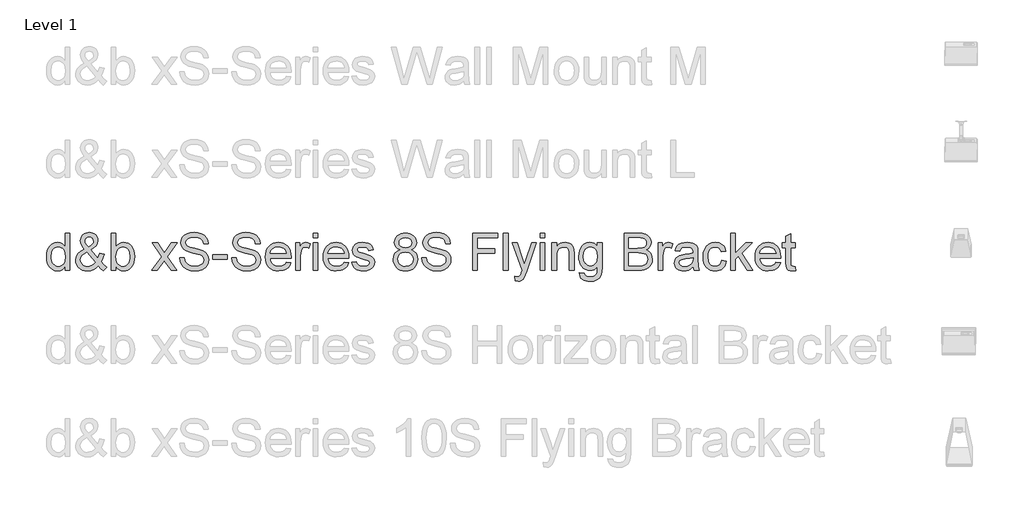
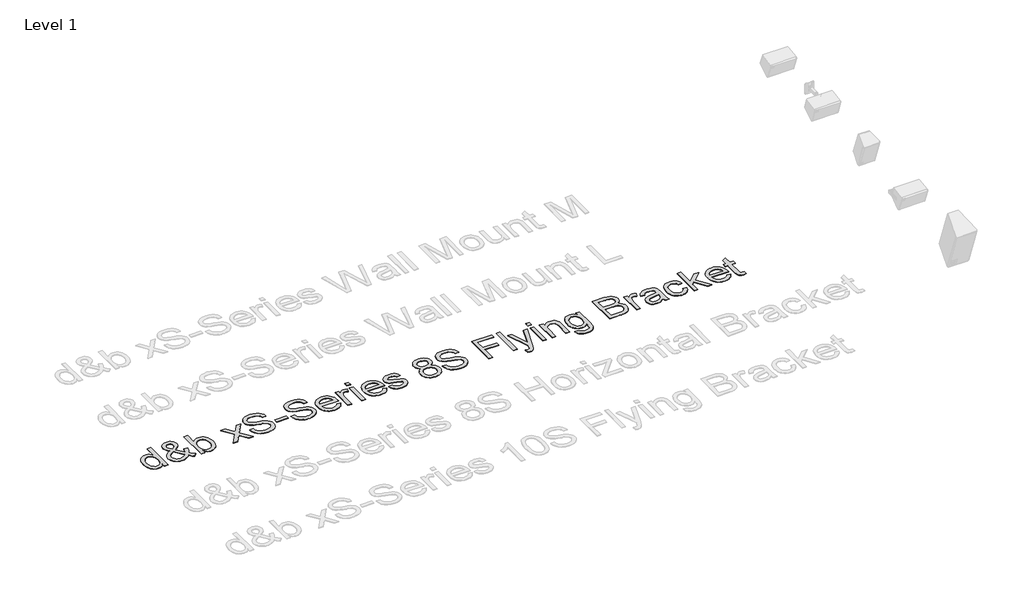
# One storey, part 39 of 55: 1 proxy.
"""IFC4 building model written with IfcOpenShell, lengths in millimetres."""

from ifc_helpers import new_model, si_unit, origin, origin_with_axes, place, context, project, spatial, polyline, outline, extrude, element, save

model = new_model("IFC4")

# Units and contexts
model_context = context("Model", 3, world=origin())
ifc_project = project(units=[si_unit("LENGTHUNIT", "METRE", prefix="MILLI")], contexts=[model_context])

# Site, building, storey
site = spatial("IfcSite", under=ifc_project)
building = spatial("IfcBuilding", under=site)
storey = spatial("IfcBuildingStorey", under=building, Name="Level 1", Elevation=0.0)

# Proxy
placement = place(None, origin())
element("IfcBuildingElementProxy", 1, Name="400mm Arial", ObjectType="400mm Arial", at=placement, inside=storey, context=model_context, shape_type="SweptSolid", body=[
    extrude(outline(polyline([(-20879.8211974, 2351.3054836), (-20879.8211974, 2398.6886846), (-20894.8491769, 2375.2116819), (-20913.0532043, 2358.4423943), (-20934.4332796, 2348.3808217), (-20958.9894028, 2345.0269642), (-20991.4611202, 2349.8830065), (-21021.1859854, 2364.4511335), (-21046.3491139, 2387.7135384), (-21065.1356211, 2418.6524142), (-21076.8342686, 2456.0169621), (-21080.7338177, 2498.5563835), (-21077.1408369, 2540.5685074), (-21066.3618944, 2578.5094038), (-21048.4092531, 2610.2208318), (-21023.2951755, 2633.5445503), (-20992.9203855, 2647.8919481), (-20959.1856065, 2652.674414), (-20934.6110892, 2649.2531115), (-20912.8815261, 2638.9892038), (-20894.4629008, 2623.2561171), (-20879.8211974, 2603.4272776), (-20879.8211974, 2753.1307242), (-20829.5930424, 2753.1307242), (-20829.5930424, 2351.3054836), (-20879.8211974, 2351.3054836)]), holes=[polyline([(-21030.5056627, 2498.7525872), (-21029.089317, 2474.3957335), (-21024.8402799, 2453.3191608), (-21017.7585515, 2435.5228693), (-21007.8441318, 2421.0068589), (-20983.1469871, 2401.6930542), (-20969.2717046, 2396.864603), (-20954.3786151, 2395.2551193), (-20939.415015, 2396.7910266), (-20925.6225058, 2401.3987486), (-20901.5507606, 2419.8296365), (-20892.0440767, 2433.7386416), (-20885.2535882, 2450.8911397), (-20879.8211974, 2494.9266145), (-20885.3516901, 2543.0701049), (-20892.2648059, 2561.6052261), (-20901.9431681, 2576.4492646), (-20913.6448812, 2587.8229496), (-20926.6280499, 2595.9470104), (-20940.8926743, 2600.8214468), (-20956.4387543, 2602.4462589), (-20971.6261493, 2600.8858262), (-20985.5014319, 2596.2045278), (-20998.064602, 2588.4023638), (-21009.3156597, 2577.4793342), (-21018.586286, 2563.1963157), (-21025.2081619, 2545.3141851), (-21030.5056627, 2498.7525872)])]), origin_with_axes(), (0.0, 0.0, 1.0), 5.0),
    extrude(outline(polyline([(-20523.809528, 2400.9450275), (-20549.3405384, 2376.4808748), (-20577.0788409, 2359.00648), (-20607.0734862, 2348.5218431), (-20639.3735254, 2345.0269642), (-20668.6814577, 2347.6144009), (-20694.8010793, 2355.376711), (-20717.7323904, 2368.3138945), (-20737.4753908, 2386.4259514), (-20750.308341, 2403.7961129), (-20759.4747341, 2422.1595558), (-20764.9745699, 2441.5162802), (-20766.8078485, 2461.8662859), (-20760.9094739, 2497.0603301), (-20743.2143499, 2528.6736562), (-20713.796053, 2556.6817387), (-20672.7281596, 2581.0600523), (-20694.6416638, 2609.4114914), (-20707.7995765, 2631.8768186), (-20714.3846642, 2651.0557332), (-20716.5796934, 2669.5479349), (-20714.8506481, 2687.1020374), (-20709.6635119, 2703.4666548), (-20701.018285, 2718.6417871), (-20688.9149674, 2732.6274343), (-20674.1935562, 2744.3444759), (-20657.6940487, 2752.7137912), (-20639.4164449, 2757.7353805), (-20619.3607448, 2759.4092436), (-20600.212487, 2757.8089569), (-20582.8913764, 2753.0080968), (-20567.397413, 2745.0066634), (-20553.7305969, 2733.8046567), (-20542.5715097, 2720.3585698), (-20534.6007332, 2705.6248959), (-20529.8182672, 2689.603635), (-20528.2241119, 2672.2947871), (-20532.9452642, 2644.31123), (-20547.108721, 2618.436863), (-20570.7144823, 2594.6716861), (-20603.7625482, 2573.0156993), (-20531.069066, 2482.4676776), (-20518.6837055, 2508.3420446), (-20509.3885538, 2538.0914353), (-20459.1603987, 2527.2021282), (-20474.6114425, 2480.6773185), (-20494.6732739, 2444.5022557), (-20466.1256311, 2411.1966724), (-20434.0463211, 2383.6790991), (-20471.7174374, 2345.0269642), (-20497.3465498, 2368.47331), (-20523.809528, 2400.9450275)]), holes=[polyline([(-20557.4584678, 2437.1446158), (-20647.1235727, 2549.0788442), (-20681.3733865, 2527.2266537), (-20702.305872, 2506.9931439), (-20713.0112381, 2487.6670765), (-20716.5796934, 2468.5372127), (-20711.6991256, 2444.8456122), (-20697.0574222, 2420.2710949), (-20686.2784798, 2409.3266056), (-20673.4639236, 2401.5091132), (-20658.6137537, 2396.8186177), (-20641.7279702, 2395.2551193), (-20619.0051256, 2398.1736498), (-20595.5710425, 2406.9292412), (-20574.1480476, 2420.3201459), (-20557.4584678, 2437.1446158)]), polyline([(-20629.1709314, 2604.7026019), (-20602.9041569, 2621.3676562), (-20587.8700461, 2635.8499441), (-20580.8067117, 2649.9398245), (-20578.452267, 2665.4276565), (-20581.5547385, 2682.9756277), (-20590.862153, 2696.9674062), (-20604.829406, 2706.1276679), (-20621.9113933, 2709.1810885), (-20639.3612626, 2706.1521934), (-20653.6473468, 2697.0655081), (-20663.1754905, 2683.6132898), (-20666.3515384, 2667.4877957), (-20662.0350563, 2649.0936959), (-20648.9875082, 2628.639457), (-20629.1709314, 2604.7026019)])]), origin_with_axes(), (0.0, 0.0, 1.0), 5.0),
    extrude(outline(polyline([(-20333.590011, 2351.3054836), (-20383.8181661, 2351.3054836), (-20383.8181661, 2753.1307242), (-20333.590011, 2753.1307242), (-20333.590011, 2604.1139907), (-20317.0721094, 2625.3591759), (-20298.4204923, 2640.5343082), (-20277.6351595, 2649.6393876), (-20254.7161112, 2652.674414), (-20228.8417442, 2649.9398245), (-20204.3898543, 2641.736056), (-20182.758393, 2628.5781433), (-20165.3453119, 2610.9811212), (-20151.6968898, 2589.116668), (-20141.3594058, 2563.1564619), (-20134.8478945, 2534.1796234), (-20132.6773907, 2503.265273), (-20134.9245365, 2467.5929822), (-20141.6659741, 2436.2126481), (-20152.9017034, 2409.1242705), (-20168.6317244, 2386.3278495), (-20187.5132678, 2368.2587122), (-20208.2035643, 2355.3521855), (-20230.702614, 2347.6082695), (-20255.0104168, 2345.0269642), (-20278.6836232, 2348.3562962), (-20299.671291, 2358.3442924), (-20317.9734203, 2374.9909527), (-20333.590011, 2398.2962771), (-20333.590011, 2351.3054836)]), holes=[polyline([(-20333.590011, 2500.9108283), (-20330.1564457, 2459.0213318), (-20319.8557498, 2430.6698927), (-20307.6849872, 2415.1759293), (-20293.5399244, 2404.1088126), (-20277.4205617, 2397.4685426), (-20259.3268989, 2395.2551193), (-20244.3050508, 2396.8860628), (-20230.3377977, 2401.7788933), (-20217.4251396, 2409.9336109), (-20205.5670767, 2421.3502155), (-20195.6526569, 2435.9980502), (-20188.5709285, 2453.8464584), (-20184.3218914, 2474.8954399), (-20182.9055458, 2499.1449947), (-20188.3379366, 2545.1057186), (-20195.1284251, 2562.8989445), (-20204.6351089, 2577.2340795), (-20216.0670419, 2588.264408), (-20228.6332778, 2596.1432141), (-20242.3338164, 2600.8704977), (-20257.1686579, 2602.4462589), (-20272.190506, 2600.8153154), (-20286.1577591, 2595.9224849), (-20299.0704171, 2587.7677673), (-20310.9284801, 2576.3511628), (-20320.8428999, 2561.8504808), (-20327.9246283, 2544.443531), (-20332.1736653, 2524.1303135), (-20333.590011, 2500.9108283)])]), origin_with_axes(), (0.0, 0.0, 1.0), 5.0),
    extrude(outline(polyline([(-19950.6003285, 2351.3054836), (-19843.2768878, 2499.7336059), (-19944.3218092, 2646.3958946), (-19884.0872638, 2646.3958946), (-19835.3306367, 2575.6644497), (-19812.4729021, 2542.4079173), (-19792.6563253, 2569.6802359), (-19737.1306695, 2646.3958946), (-19676.6999204, 2646.3958946), (-19782.8461387, 2499.635504), (-19680.623995, 2351.3054836), (-19740.9566422, 2351.3054836), (-19802.5646137, 2440.5781811), (-19813.7482263, 2456.9611926), (-19890.1695795, 2351.3054836), (-19950.6003285, 2351.3054836)])), origin_with_axes(), (0.0, 0.0, 1.0), 5.0),
    extrude(outline(polyline([(-19649.2313981, 2489.43291), (-19599.003243, 2489.43291), (-19593.2397584, 2461.5597175), (-19582.8164352, 2439.155704), (-19566.556051, 2421.3747409), (-19543.2813835, 2407.3706996), (-19514.8318425, 2398.2840144), (-19483.0468381, 2395.2551193), (-19455.063281, 2397.5482504), (-19430.5623402, 2404.4276437), (-19410.7089752, 2415.3169507), (-19396.6681457, 2429.6398231), (-19388.3172244, 2446.0841483), (-19385.533584, 2463.3378138), (-19387.6182486, 2480.150021), (-19393.8722425, 2494.6813598), (-19406.5764341, 2507.0789831), (-19428.0116917, 2517.4900435), (-19501.1466323, 2536.6689582), (-19549.1552327, 2549.360887), (-19579.8733793, 2561.4396792), (-19604.8770922, 2578.3377255), (-19622.5967416, 2598.8164899), (-19633.1549549, 2622.434514), (-19636.6743593, 2648.7503394), (-19632.3210891, 2678.1686363), (-19619.2612782, 2705.6003704), (-19597.8382834, 2728.8505125), (-19568.395461, 2745.7240333), (-19533.054264, 2755.987941), (-19493.9361452, 2759.4092436), (-19451.5561394, 2755.8285255), (-19414.4736342, 2745.0863712), (-19384.013005, 2727.40351), (-19361.4986269, 2703.000671), (-19347.249331, 2673.3984331), (-19341.5839483, 2640.1173753), (-19391.8121033, 2640.1173753), (-19401.0336787, 2670.0874951), (-19409.3968627, 2681.9455581), (-19420.2616443, 2691.7189564), (-19450.3053406, 2704.8155555), (-19491.9741079, 2709.1810885), (-19534.6238939, 2704.8646064), (-19550.9271976, 2699.4690038), (-19563.8827752, 2691.9151602), (-19580.805347, 2672.8588728), (-19586.4462043, 2650.2218674), (-19582.4485532, 2630.9203254), (-19570.4556002, 2615.3957052), (-19542.1041611, 2601.5142912), (-19488.4424407, 2587.3385717), (-19433.0639377, 2573.8740907), (-19399.5621507, 2562.1263923), (-19370.9286687, 2543.9039708), (-19350.9526764, 2521.4141181), (-19339.2172408, 2494.902089), (-19335.3054289, 2464.6131381), (-19339.805852, 2433.6497368), (-19353.3071212, 2404.5257455), (-19375.2574136, 2379.4607189), (-19405.1049061, 2360.6742117), (-19440.9979261, 2348.9387761), (-19481.0848008, 2345.0269642), (-19530.2951491, 2349.2453444), (-19570.7989567, 2361.900485), (-19603.0622077, 2383.041437), (-19627.5508858, 2412.7172513), (-19643.2717098, 2448.8677887), (-19649.2313981, 2489.43291)])), origin_with_axes(), (0.0, 0.0, 1.0), 5.0),
    extrude(outline(polyline([(-19291.3557932, 2470.5973519), (-19291.3557932, 2520.825507), (-19134.3928086, 2520.825507), (-19134.3928086, 2470.5973519), (-19291.3557932, 2470.5973519)])), origin_with_axes(), (0.0, 0.0, 1.0), 5.0),
    extrude(outline(polyline([(-19090.4431729, 2489.43291), (-19040.2150178, 2489.43291), (-19034.4515332, 2461.5597175), (-19024.02821, 2439.155704), (-19007.7678258, 2421.3747409), (-18984.4931583, 2407.3706996), (-18956.0436173, 2398.2840144), (-18924.2586129, 2395.2551193), (-18896.2750558, 2397.5482504), (-18871.774115, 2404.4276437), (-18851.9207499, 2415.3169507), (-18837.8799205, 2429.6398231), (-18829.5289992, 2446.0841483), (-18826.7453587, 2463.3378138), (-18828.8300234, 2480.150021), (-18835.0840173, 2494.6813598), (-18847.7882089, 2507.0789831), (-18869.2234665, 2517.4900435), (-18942.3584071, 2536.6689582), (-18990.3670075, 2549.360887), (-19021.0851541, 2561.4396792), (-19046.088867, 2578.3377255), (-19063.8085164, 2598.8164899), (-19074.3667297, 2622.434514), (-19077.8861341, 2648.7503394), (-19073.5328638, 2678.1686363), (-19060.473053, 2705.6003704), (-19039.0500582, 2728.8505125), (-19009.6072358, 2745.7240333), (-18974.2660388, 2755.987941), (-18935.14792, 2759.4092436), (-18892.7679141, 2755.8285255), (-18855.685409, 2745.0863712), (-18825.2247798, 2727.40351), (-18802.7104017, 2703.000671), (-18788.4611058, 2673.3984331), (-18782.7957231, 2640.1173753), (-18833.0238781, 2640.1173753), (-18842.2454535, 2670.0874951), (-18850.6086375, 2681.9455581), (-18861.4734191, 2691.7189564), (-18891.5171154, 2704.8155555), (-18933.1858827, 2709.1810885), (-18975.8356687, 2704.8646064), (-18992.1389724, 2699.4690038), (-19005.09455, 2691.9151602), (-19022.0171218, 2672.8588728), (-19027.657979, 2650.2218674), (-19023.660328, 2630.9203254), (-19011.667375, 2615.3957052), (-18983.3159359, 2601.5142912), (-18929.6542155, 2587.3385717), (-18874.2757125, 2573.8740907), (-18840.7739255, 2562.1263923), (-18812.1404435, 2543.9039708), (-18792.1644512, 2521.4141181), (-18780.4290156, 2494.902089), (-18776.5172037, 2464.6131381), (-18781.0176267, 2433.6497368), (-18794.518896, 2404.5257455), (-18816.4691883, 2379.4607189), (-18846.3166809, 2360.6742117), (-18882.2097009, 2348.9387761), (-18922.2965756, 2345.0269642), (-18971.5069238, 2349.2453444), (-19012.0107315, 2361.900485), (-19044.2739825, 2383.041437), (-19068.7626606, 2412.7172513), (-19084.4834846, 2448.8677887), (-19090.4431729, 2489.43291)])), origin_with_axes(), (0.0, 0.0, 1.0), 5.0),
    extrude(outline(polyline([(-18500.850962, 2439.204755), (-18451.6038255, 2432.9262356), (-18459.1546035, 2413.2016293), (-18469.3480004, 2395.819205), (-18482.1840164, 2380.7789628), (-18497.6626513, 2368.0809026), (-18515.6244897, 2357.9948045), (-18535.9101161, 2350.7904488), (-18583.4527326, 2345.0269642), (-18614.618469, 2347.5132333), (-18642.3874282, 2354.9720408), (-18666.7596104, 2367.4033865), (-18687.7350155, 2384.8072706), (-18704.602405, 2406.699315), (-18716.6505403, 2432.5951418), (-18723.8794215, 2462.4947509), (-18726.2890486, 2496.3981425), (-18723.8548961, 2531.4511652), (-18716.5524385, 2562.3471215), (-18704.3816758, 2589.0860112), (-18687.342608, 2611.6678343), (-18666.4223852, 2629.6082129), (-18642.6081574, 2642.4227691), (-18615.8999246, 2650.1115028), (-18586.2976867, 2652.674414), (-18557.6488763, 2650.1176342), (-18531.7407868, 2642.4472946), (-18508.5734182, 2629.6633952), (-18488.1467704, 2611.7659362), (-18471.472519, 2589.233164), (-18459.5623394, 2562.5433252), (-18452.4162316, 2531.6964199), (-18450.0341957, 2496.6924481), (-18450.3285013, 2483.1543906), (-18676.0608935, 2483.1543906), (-18673.1515601, 2463.1109533), (-18667.3666157, 2445.5568507), (-18658.7060604, 2430.492083), (-18647.1698942, 2417.9166502), (-18633.3957791, 2408.0022304), (-18618.0213774, 2400.920502), (-18582.4717139, 2395.2551193), (-18555.7389556, 2397.8793442), (-18533.2245775, 2405.7520189), (-18514.9285796, 2419.3636527), (-18500.850962, 2439.204755)]), holes=[polyline([(-18676.0608935, 2533.3825457), (-18500.2623508, 2533.3825457), (-18507.0559049, 2559.9191003), (-18520.3732332, 2578.9018113), (-18534.0707061, 2589.2025071), (-18549.65664, 2596.560147), (-18567.1310348, 2600.974731), (-18586.4938904, 2602.4462589), (-18620.3512967, 2597.7496321), (-18648.3471166, 2583.6597517), (-18667.8080741, 2561.6971966), (-18676.0608935, 2533.3825457)])]), origin_with_axes(), (0.0, 0.0, 1.0), 5.0),
    extrude(outline(polyline([(-18399.8060406, 2351.3054836), (-18399.8060406, 2646.3958946), (-18355.8564049, 2646.3958946), (-18355.8564049, 2602.7405645), (-18339.6205462, 2628.0508458), (-18324.6600117, 2642.9623293), (-18309.6504263, 2650.2463929), (-18293.2674148, 2652.674414), (-18268.2514391, 2648.7993903), (-18242.843056, 2637.1743193), (-18259.618475, 2592.1455631), (-18277.2768108, 2599.871085), (-18294.9351465, 2602.4462589), (-18309.9324692, 2599.9691868), (-18323.3356365, 2592.5379705), (-18334.1636299, 2580.7166958), (-18341.4354307, 2565.0694482), (-18347.5422718, 2537.0123147), (-18349.5778855, 2506.4045327), (-18349.5778855, 2351.3054836), (-18399.8060406, 2351.3054836)])), origin_with_axes(), (0.0, 0.0, 1.0), 5.0),
    extrude(outline(polyline([(-18211.4504591, 2702.9025691), (-18211.4504591, 2753.1307242), (-18161.222304, 2753.1307242), (-18161.222304, 2702.9025691), (-18211.4504591, 2702.9025691)])), origin_with_axes(), (0.0, 0.0, 1.0), 5.0),
    extrude(outline(polyline([(-18211.4504591, 2351.3054836), (-18211.4504591, 2646.3958946), (-18161.222304, 2646.3958946), (-18161.222304, 2351.3054836), (-18211.4504591, 2351.3054836)])), origin_with_axes(), (0.0, 0.0, 1.0), 5.0),
    extrude(outline(polyline([(-17879.2775429, 2439.204755), (-17830.0304065, 2432.9262356), (-17837.5811844, 2413.2016293), (-17847.7745814, 2395.819205), (-17860.6105973, 2380.7789628), (-17876.0892323, 2368.0809026), (-17894.0510707, 2357.9948045), (-17914.336697, 2350.7904488), (-17961.8793136, 2345.0269642), (-17993.0450499, 2347.5132333), (-18020.8140092, 2354.9720408), (-18045.1861914, 2367.4033865), (-18066.1615965, 2384.8072706), (-18083.0289859, 2406.699315), (-18095.0771213, 2432.5951418), (-18102.3060025, 2462.4947509), (-18104.7156295, 2496.3981425), (-18102.281477, 2531.4511652), (-18094.9790194, 2562.3471215), (-18082.8082567, 2589.0860112), (-18065.769189, 2611.6678343), (-18044.8489662, 2629.6082129), (-18021.0347384, 2642.4227691), (-17994.3265055, 2650.1115028), (-17964.7242676, 2652.674414), (-17936.0754573, 2650.1176342), (-17910.1673678, 2642.4472946), (-17886.9999991, 2629.6633952), (-17866.5733513, 2611.7659362), (-17849.8990999, 2589.233164), (-17837.9889203, 2562.5433252), (-17830.8428126, 2531.6964199), (-17828.4607766, 2496.6924481), (-17828.7550822, 2483.1543906), (-18054.4874745, 2483.1543906), (-18051.578141, 2463.1109533), (-18045.7931967, 2445.5568507), (-18037.1326413, 2430.492083), (-18025.5964751, 2417.9166502), (-18011.8223601, 2408.0022304), (-17996.4479584, 2400.920502), (-17960.8982949, 2395.2551193), (-17934.1655366, 2397.8793442), (-17911.6511585, 2405.7520189), (-17893.3551606, 2419.3636527), (-17879.2775429, 2439.204755)]), holes=[polyline([(-18054.4874745, 2533.3825457), (-17878.6889317, 2533.3825457), (-17885.4824859, 2559.9191003), (-17898.7998141, 2578.9018113), (-17912.4972871, 2589.2025071), (-17928.0832209, 2596.560147), (-17945.5576157, 2600.974731), (-17964.9204714, 2602.4462589), (-17998.7778777, 2597.7496321), (-18026.7736975, 2583.6597517), (-18046.234655, 2561.6971966), (-18054.4874745, 2533.3825457)])]), origin_with_axes(), (0.0, 0.0, 1.0), 5.0),
    extrude(outline(polyline([(-17797.0681797, 2439.204755), (-17746.8400246, 2445.4832743), (-17738.918299, 2423.9989658), (-17723.5898825, 2408.2045655), (-17700.7566734, 2398.4924808), (-17670.3205696, 2395.2551193), (-17640.2523479, 2398.2227007), (-17619.1113959, 2407.125445), (-17606.6034081, 2420.0258403), (-17602.4340788, 2434.9863747), (-17606.6279335, 2447.7886682), (-17619.2094978, 2457.5498038), (-17670.9091808, 2471.8726761), (-17746.545719, 2496.4471934), (-17765.6878455, 2508.7957657), (-17779.5569967, 2525.141989), (-17787.9814944, 2544.443531), (-17790.7896603, 2565.6580594), (-17788.5333174, 2585.119017), (-17781.7642887, 2603.0839211), (-17771.0957109, 2618.8415332), (-17757.1407205, 2631.6806148), (-17725.2085633, 2646.5430474), (-17704.3251287, 2651.1415724), (-17681.9946916, 2652.674414), (-17649.302245, 2650.2096047), (-17620.8772295, 2642.8151766), (-17598.0194949, 2631.214631), (-17582.0288908, 2616.1314692), (-17571.4338893, 2596.4497824), (-17564.7629625, 2571.053662), (-17614.9911176, 2564.7751426), (-17621.3309506, 2580.5818057), (-17633.8757267, 2592.4889196), (-17652.748073, 2599.9569241), (-17678.070617, 2602.4462589), (-17706.9125654, 2600.0672887), (-17726.140531, 2592.930378), (-17736.9562617, 2582.6296821), (-17740.5615053, 2570.7593564), (-17734.5772915, 2556.1421785), (-17715.8398352, 2545.0566677), (-17672.5769125, 2534.3635644), (-17598.8533607, 2510.7210148), (-17579.3801404, 2499.4147748), (-17564.6158097, 2483.9392056), (-17555.3083952, 2464.2452561), (-17552.2059237, 2440.2838755), (-17555.8479555, 2415.5131545), (-17566.7740507, 2392.2139614), (-17584.5672766, 2372.2134436), (-17608.8107, 2357.3387483), (-17638.0941069, 2348.1049102), (-17671.0072827, 2345.0269642), (-17698.040478, 2346.5107549), (-17721.6523707, 2350.962127), (-17741.8429609, 2358.3810806), (-17758.6122485, 2368.7676156), (-17772.3097214, 2382.0726811), (-17783.2848676, 2398.2472262), (-17791.5376871, 2417.2912508), (-17797.0681797, 2439.204755)])), origin_with_axes(), (0.0, 0.0, 1.0), 5.0),
    extrude(outline(polyline([(-17278.1093119, 2572.6232919), (-17305.0014857, 2585.8670437), (-17323.8738321, 2603.8196851), (-17335.0206565, 2626.113334), (-17338.7362647, 2652.3801084), (-17336.7129137, 2672.8650042), (-17330.6428608, 2691.64538), (-17320.5261059, 2708.721236), (-17306.3626491, 2724.092572), (-17288.833072, 2736.7967636), (-17268.6179564, 2745.8711861), (-17245.7173022, 2751.3158397), (-17220.1311094, 2753.1307242), (-17194.4222893, 2751.2729201), (-17171.3499568, 2745.6995079), (-17150.914112, 2736.4104875), (-17133.1147548, 2723.405859), (-17118.6937806, 2707.734086), (-17108.3930847, 2690.4436322), (-17102.2126672, 2671.5344976), (-17100.152528, 2651.0066823), (-17103.8190853, 2625.5860364), (-17114.8187569, 2603.6725323), (-17133.2741703, 2585.8302555), (-17159.3079529, 2572.6232919), (-17128.3936025, 2556.6940015), (-17105.8914872, 2533.2353929), (-17092.1694888, 2503.3756376), (-17087.5954893, 2468.2429071), (-17089.8640949, 2443.1901432), (-17096.6699118, 2420.222044), (-17108.01294, 2399.3386094), (-17123.8931795, 2380.5398395), (-17143.4767643, 2365.0029565), (-17165.9298288, 2353.905183), (-17191.2523728, 2347.2465189), (-17219.4443964, 2345.0269642), (-17247.6364199, 2347.2557159), (-17272.9589639, 2353.9419712), (-17295.4120284, 2365.08573), (-17314.9956132, 2380.6869923), (-17330.8758527, 2399.6175866), (-17342.2188809, 2420.7493415), (-17349.0246978, 2444.0822571), (-17351.2933034, 2469.6163332), (-17346.535363, 2506.1102271), (-17332.2615415, 2536.1293979), (-17309.2076032, 2558.6437761), (-17278.1093119, 2572.6232919)]), holes=[polyline([(-17288.5081096, 2650.9085804), (-17284.0567374, 2628.9828135), (-17270.702621, 2611.4716306), (-17248.8381678, 2599.9937123), (-17218.8557852, 2596.1677396), (-17189.5723783, 2599.9691868), (-17168.0390189, 2611.3735287), (-17154.7952671, 2628.2961005), (-17150.3806831, 2648.6522375), (-17154.9424199, 2669.7809268), (-17168.6276301, 2687.2553216), (-17190.4552951, 2698.9907572), (-17219.4443964, 2702.9025691), (-17248.6174386, 2699.0765963), (-17270.4083154, 2687.5986781), (-17283.983161, 2670.7742082), (-17288.5081096, 2650.9085804)]), polyline([(-17301.0651483, 2471.3821668), (-17298.968221, 2452.1664639), (-17292.6774389, 2433.5638977), (-17281.0646305, 2417.3403017), (-17263.0016246, 2405.2615095), (-17241.3701633, 2397.7567168), (-17219.0519889, 2395.2551193), (-17184.8634888, 2400.5158318), (-17170.9698121, 2407.0917225), (-17159.209851, 2416.2979694), (-17143.170196, 2440.1980363), (-17137.8236444, 2469.812537), (-17143.3418743, 2499.9298096), (-17159.8965641, 2524.3571741), (-17171.9753562, 2533.7994786), (-17186.1388131, 2540.5439819), (-17220.7197206, 2545.9395845), (-17254.4299741, 2540.6175583), (-17268.1673009, 2533.9650255), (-17279.8260945, 2524.6514797), (-17295.7553849, 2500.6900991), (-17301.0651483, 2471.3821668)])]), origin_with_axes(), (0.0, 0.0, 1.0), 5.0),
    extrude(outline(polyline([(-17043.6458536, 2489.43291), (-16993.4176985, 2489.43291), (-16987.6542139, 2461.5597175), (-16977.2308907, 2439.155704), (-16960.9705065, 2421.3747409), (-16937.695839, 2407.3706996), (-16909.246298, 2398.2840144), (-16877.4612936, 2395.2551193), (-16849.4777365, 2397.5482504), (-16824.9767957, 2404.4276437), (-16805.1234307, 2415.3169507), (-16791.0826012, 2429.6398231), (-16782.7316799, 2446.0841483), (-16779.9480394, 2463.3378138), (-16782.0327041, 2480.150021), (-16788.286698, 2494.6813598), (-16800.9908896, 2507.0789831), (-16822.4261472, 2517.4900435), (-16895.5610878, 2536.6689582), (-16943.5696882, 2549.360887), (-16974.2878348, 2561.4396792), (-16999.2915477, 2578.3377255), (-17017.0111971, 2598.8164899), (-17027.5694104, 2622.434514), (-17031.0888148, 2648.7503394), (-17026.7355445, 2678.1686363), (-17013.6757337, 2705.6003704), (-16992.2527389, 2728.8505125), (-16962.8099165, 2745.7240333), (-16927.4687195, 2755.987941), (-16888.3506007, 2759.4092436), (-16845.9705948, 2755.8285255), (-16808.8880897, 2745.0863712), (-16778.4274605, 2727.40351), (-16755.9130824, 2703.000671), (-16741.6637865, 2673.3984331), (-16735.9984038, 2640.1173753), (-16786.2265588, 2640.1173753), (-16795.4481342, 2670.0874951), (-16803.8113182, 2681.9455581), (-16814.6760998, 2691.7189564), (-16844.7197961, 2704.8155555), (-16886.3885634, 2709.1810885), (-16929.0383494, 2704.8646064), (-16945.3416531, 2699.4690038), (-16958.2972307, 2691.9151602), (-16975.2198025, 2672.8588728), (-16980.8606597, 2650.2218674), (-16976.8630087, 2630.9203254), (-16964.8700557, 2615.3957052), (-16936.5186166, 2601.5142912), (-16882.8568962, 2587.3385717), (-16827.4783932, 2573.8740907), (-16793.9766062, 2562.1263923), (-16765.3431242, 2543.9039708), (-16745.3671319, 2521.4141181), (-16733.6316963, 2494.902089), (-16729.7198844, 2464.6131381), (-16734.2203074, 2433.6497368), (-16747.7215767, 2404.5257455), (-16769.671869, 2379.4607189), (-16799.5193616, 2360.6742117), (-16835.4123816, 2348.9387761), (-16875.4992563, 2345.0269642), (-16924.7096046, 2349.2453444), (-16965.2134122, 2361.900485), (-16997.4766632, 2383.041437), (-17021.9653413, 2412.7172513), (-17037.6861653, 2448.8677887), (-17043.6458536, 2489.43291)])), origin_with_axes(), (0.0, 0.0, 1.0), 5.0),
    extrude(outline(polyline([(-16497.4146672, 2351.3054836), (-16497.4146672, 2753.1307242), (-16227.4383336, 2753.1307242), (-16227.4383336, 2702.9025691), (-16447.1865121, 2702.9025691), (-16447.1865121, 2583.6107008), (-16258.8309305, 2583.6107008), (-16258.8309305, 2533.3825457), (-16447.1865121, 2533.3825457), (-16447.1865121, 2351.3054836), (-16497.4146672, 2351.3054836)])), origin_with_axes(), (0.0, 0.0, 1.0), 5.0),
    extrude(outline(polyline([(-16164.6531398, 2351.3054836), (-16164.6531398, 2753.1307242), (-16114.4249847, 2753.1307242), (-16114.4249847, 2351.3054836), (-16164.6531398, 2351.3054836)])), origin_with_axes(), (0.0, 0.0, 1.0), 5.0),
    extrude(outline(polyline([(-16039.0827521, 2238.2921347), (-16045.3612715, 2286.6563543), (-16019.8547865, 2282.2417703), (-16006.4393564, 2283.6274592), (-15996.0160332, 2287.7845257), (-15981.3988553, 2303.2355695), (-15967.6645941, 2340.2199728), (-15963.7405195, 2352.3846041), (-16070.475349, 2646.3958946), (-16017.5984436, 2646.3958946), (-15960.8955654, 2482.4676776), (-15941.1770904, 2416.9356315), (-15921.4586155, 2474.913834), (-15863.2842093, 2646.3958946), (-15810.7997114, 2646.3958946), (-15913.5123644, 2344.2421493), (-15940.1960718, 2278.7101032), (-15953.8567565, 2257.7898804), (-15969.3323258, 2243.2953298), (-15987.2849672, 2234.8340439), (-16008.3768682, 2232.0136153), (-16039.0827521, 2238.2921347)])), origin_with_axes(), (0.0, 0.0, 1.0), 5.0),
    extrude(outline(polyline([(-15769.1064186, 2351.3054836), (-15769.1064186, 2646.3958946), (-15718.8782635, 2646.3958946), (-15718.8782635, 2351.3054836), (-15769.1064186, 2351.3054836)])), origin_with_axes(), (0.0, 0.0, 1.0), 5.0),
    extrude(outline(polyline([(-15769.1064186, 2702.9025691), (-15769.1064186, 2753.1307242), (-15718.8782635, 2753.1307242), (-15718.8782635, 2702.9025691), (-15769.1064186, 2702.9025691)])), origin_with_axes(), (0.0, 0.0, 1.0), 5.0),
    extrude(outline(polyline([(-15643.5360309, 2351.3054836), (-15643.5360309, 2646.3958946), (-15593.3078758, 2646.3958946), (-15593.3078758, 2605.1931112), (-15575.8580065, 2625.9661812), (-15554.9009955, 2640.8040883), (-15530.4368428, 2649.7068326), (-15502.4655485, 2652.674414), (-15477.7070902, 2650.2831811), (-15455.0332966, 2643.1094821), (-15436.124162, 2632.0484968), (-15422.659681, 2617.9954046), (-15413.5239448, 2600.9869937), (-15407.6010446, 2581.0600523), (-15404.9522943, 2532.4996289), (-15404.9522943, 2351.3054836), (-15455.1804494, 2351.3054836), (-15455.1804494, 2525.7306002), (-15456.6274519, 2551.7030691), (-15460.9684594, 2570.1707452), (-15468.9760242, 2583.4022343), (-15481.4226983, 2593.666142), (-15497.3765142, 2600.2512297), (-15515.905504, 2602.4462589), (-15545.3238009, 2597.5166402), (-15570.4010902, 2582.727784), (-15580.4228089, 2570.6551232), (-15587.5811794, 2554.1556157), (-15591.8762017, 2533.2292616), (-15593.3078758, 2507.8760607), (-15593.3078758, 2351.3054836), (-15643.5360309, 2351.3054836)])), origin_with_axes(), (0.0, 0.0, 1.0), 5.0),
    extrude(outline(polyline([(-15348.4456198, 2326.191406), (-15298.2174647, 2319.9128867), (-15292.6747093, 2304.2165882), (-15281.9325551, 2293.425383), (-15260.8161286, 2285.0376735), (-15233.175928, 2282.2417703), (-15203.6963174, 2285.4055555), (-15181.7705505, 2294.896911), (-15166.5647614, 2310.1027001), (-15157.2450842, 2330.4097862), (-15153.8115189, 2388.9765999), (-15170.5256242, 2372.4954865), (-15189.1772414, 2360.7232626), (-15209.7663704, 2353.6599283), (-15232.2930112, 2351.3054836), (-15259.8320442, 2354.0462044), (-15284.0785334, 2362.268367), (-15305.0324787, 2375.9719713), (-15322.6938802, 2395.1570174), (-15336.7071185, 2418.1741676), (-15346.7165744, 2443.3740842), (-15352.722248, 2470.7567674), (-15354.7241392, 2500.3222171), (-15351.1311584, 2540.8750757), (-15340.3522159, 2578.1660473), (-15322.7674566, 2609.7671107), (-15298.757025, 2633.2502447), (-15269.1425244, 2647.8183717), (-15234.7455578, 2652.674414), (-15211.2562924, 2649.9275618), (-15189.9375308, 2641.6870051), (-15170.789273, 2627.9527439), (-15153.8115189, 2608.7247783), (-15153.8115189, 2646.3958946), (-15103.5833638, 2646.3958946), (-15103.5833638, 2391.6253502), (-15107.0169291, 2332.8010192), (-15117.317625, 2294.0630451), (-15135.0617999, 2268.3726191), (-15160.8258023, 2248.6909324), (-15194.0455464, 2236.1829445), (-15234.1569466, 2232.0136153), (-15258.7651864, 2233.4820776), (-15280.8902228, 2237.8874645), (-15300.5320556, 2245.2297759), (-15317.690685, 2255.509012), (-15331.5506392, 2268.7374354), (-15341.2964464, 2284.9273089), (-15346.9281066, 2304.0786324), (-15348.4456198, 2326.191406)]), holes=[polyline([(-15304.4959841, 2503.7557824), (-15299.1371697, 2457.6846938), (-15292.4386517, 2440.0478179), (-15283.0607265, 2426.0100541), (-15271.6594504, 2415.3016223), (-15258.8908795, 2407.6527425), (-15244.7550138, 2403.0634146), (-15229.2518534, 2401.5336386), (-15213.9019771, 2403.0542176), (-15199.8335565, 2407.6159543), (-15187.0465915, 2415.2188489), (-15175.5410821, 2425.8629013), (-15166.0343982, 2439.7627093), (-15159.2439097, 2457.1328709), (-15153.8115189, 2502.2842544), (-15159.4033252, 2545.8292199), (-15166.3930831, 2563.0307688), (-15176.1787442, 2577.1850286), (-15187.932574, 2588.2368169), (-15200.8268379, 2596.1309514), (-15214.861536, 2600.8674321), (-15230.0366683, 2602.4462589), (-15244.9573489, 2600.8919575), (-15258.7192012, 2596.2290532), (-15282.7664209, 2577.5774361), (-15292.2731048, 2563.6377741), (-15299.0635933, 2546.6876112), (-15304.4959841, 2503.7557824)])]), origin_with_axes(), (0.0, 0.0, 1.0), 5.0),
    extrude(outline(polyline([(-14864.9996272, 2351.3054836), (-14864.9996272, 2753.1307242), (-14711.6664116, 2753.1307242), (-14669.4948723, 2750.1754055), (-14636.5694337, 2741.3094494), (-14611.3327288, 2726.3121267), (-14592.2273905, 2704.9627083), (-14580.1976493, 2679.8486307), (-14576.1877355, 2653.5573308), (-14579.5599872, 2629.3629583), (-14589.676742, 2606.6155882), (-14606.6115765, 2586.7131723), (-14630.4380671, 2571.053662), (-14601.9762634, 2556.1912294), (-14580.945676, 2533.5787494), (-14567.9594416, 2504.7122756), (-14563.6306968, 2471.0878612), (-14566.5860155, 2443.0675159), (-14575.4519716, 2417.0827843), (-14588.6834606, 2394.9853391), (-14604.7353784, 2378.6268531), (-14624.3925396, 2366.7810528), (-14648.4397594, 2358.2216651), (-14677.6618525, 2353.0345289), (-14712.843634, 2351.3054836), (-14864.9996272, 2351.3054836)]), holes=[polyline([(-14814.7714721, 2589.8892202), (-14723.046228, 2589.8892202), (-14669.4826095, 2594.2057023), (-14650.7328905, 2601.6491813), (-14637.2561467, 2612.7960057), (-14629.1259546, 2627.4744974), (-14626.4158906, 2645.5129778), (-14628.9420136, 2663.0241608), (-14636.5203828, 2678.2790009), (-14648.8076414, 2690.1861148), (-14665.460433, 2697.6541193), (-14691.015969, 2701.5904566), (-14730.0114605, 2702.9025691), (-14814.7714721, 2702.9025691), (-14814.7714721, 2589.8892202)]), polyline([(-14814.7714721, 2401.5336386), (-14711.7645135, 2401.5336386), (-14674.4858047, 2403.495676), (-14642.9460549, 2414.4340339), (-14631.3700348, 2423.8640758), (-14622.0503576, 2436.7522083), (-14615.9067283, 2452.5220832), (-14613.8588518, 2470.5973519), (-14616.2623475, 2491.5911511), (-14623.4728347, 2509.6418943), (-14636.0666616, 2523.7563002), (-14654.6201769, 2532.9410873), (-14680.8992141, 2537.9810707), (-14716.6696068, 2539.6610651), (-14814.7714721, 2539.6610651), (-14814.7714721, 2401.5336386)])]), origin_with_axes(), (0.0, 0.0, 1.0), 5.0),
    extrude(outline(polyline([(-14500.8455029, 2351.3054836), (-14500.8455029, 2646.3958946), (-14456.8958672, 2646.3958946), (-14456.8958672, 2602.7405645), (-14440.6600085, 2628.0508458), (-14425.699474, 2642.9623293), (-14410.6898886, 2650.2463929), (-14394.3068771, 2652.674414), (-14369.2909015, 2648.7993903), (-14343.8825183, 2637.1743193), (-14360.6579373, 2592.1455631), (-14378.3162731, 2599.871085), (-14395.9746088, 2602.4462589), (-14410.9719315, 2599.9691868), (-14424.3750989, 2592.5379705), (-14435.2030923, 2580.7166958), (-14442.474893, 2565.0694482), (-14448.5817341, 2537.0123147), (-14450.6173479, 2506.4045327), (-14450.6173479, 2351.3054836), (-14500.8455029, 2351.3054836)])), origin_with_axes(), (0.0, 0.0, 1.0), 5.0),
    extrude(outline(polyline([(-14124.1343399, 2388.9765999), (-14148.1325087, 2368.3997336), (-14172.841916, 2354.9352526), (-14198.8266476, 2347.5040363), (-14226.6507892, 2345.0269642), (-14249.0149488, 2346.5168863), (-14268.6261248, 2350.9866525), (-14285.4843173, 2358.4362629), (-14299.5895261, 2368.8657175), (-14310.7271535, 2381.6128286), (-14318.6826017, 2396.0154087), (-14323.4558705, 2412.0734578), (-14325.0469602, 2429.7869759), (-14322.6434645, 2450.6090968), (-14315.4329774, 2469.5182314), (-14304.3106784, 2485.7050391), (-14290.171747, 2498.3601798), (-14273.5557436, 2507.9251117), (-14255.0022283, 2514.8412932), (-14211.5431019, 2522.3951368), (-14160.1867754, 2530.3413879), (-14124.4286455, 2539.6610651), (-14124.1343399, 2550.8446778), (-14127.5924306, 2573.260954), (-14137.9667029, 2587.9271829), (-14161.167794, 2598.8164899), (-14193.4923587, 2602.4462589), (-14223.4134276, 2600.0305005), (-14244.309125, 2592.7832252), (-14258.5584209, 2579.3800578), (-14268.5402857, 2558.4966233), (-14318.7684408, 2564.7751426), (-14310.0496375, 2592.2436649), (-14297.0388776, 2613.8260753), (-14278.5221505, 2630.3317142), (-14253.2854456, 2642.5699219), (-14222.4201462, 2650.148291), (-14187.0176356, 2652.674414), (-14153.0621274, 2650.4425966), (-14126.1454281, 2643.7471443), (-14105.8506047, 2633.6794403), (-14091.7607243, 2621.330868), (-14082.4165216, 2606.0637652), (-14076.3587314, 2587.2404698), (-14073.9061848, 2543.2908341), (-14073.9061848, 2480.7999459), (-14071.3555363, 2393.5383366), (-14061.349146, 2351.3054836), (-14111.5773011, 2351.3054836), (-14119.6216541, 2368.7676156), (-14124.1343399, 2388.9765999)]), holes=[polyline([(-14124.1343399, 2489.43291), (-14157.8813816, 2481.069726), (-14205.1664807, 2474.0309172), (-14248.3803524, 2465.8884623), (-14259.6252787, 2460.3211815), (-14267.9516745, 2452.6447105), (-14273.1020224, 2443.4476606), (-14274.8188051, 2433.318643), (-14271.0786715, 2418.382634), (-14259.8582706, 2406.1444263), (-14241.4028572, 2397.977446), (-14215.9576859, 2395.2551193), (-14188.9796729, 2398.2594889), (-14165.1409196, 2407.2725978), (-14145.8148521, 2420.5531378), (-14132.3748966, 2436.3598009), (-14126.4152082, 2452.6447105), (-14124.4286455, 2475.2081395), (-14124.1343399, 2489.43291)])]), origin_with_axes(), (0.0, 0.0, 1.0), 5.0),
    extrude(outline(polyline([(-13816.48689, 2458.0403131), (-13766.258735, 2451.7617937), (-13771.7217826, 2428.0609962), (-13780.2627762, 2407.0886568), (-13791.8817159, 2388.8447755), (-13806.5786016, 2373.3293524), (-13823.7341653, 2360.9470575), (-13842.729139, 2352.1025612), (-13863.5635227, 2346.7958634), (-13886.2373163, 2345.0269642), (-13914.4078801, 2347.4948392), (-13939.6660448, 2354.8984644), (-13962.0118103, 2367.2378396), (-13981.4451767, 2384.512965), (-13997.1751976, 2406.398878), (-14008.4109269, 2432.5706163), (-14015.1523645, 2463.0281798), (-14017.3995103, 2497.7715686), (-14013.5612749, 2542.469231), (-14002.0465684, 2581.2072051), (-13982.67145, 2612.4894374), (-13955.2519786, 2634.8198745), (-13922.4491674, 2648.2107791), (-13886.9240294, 2652.674414), (-13864.6395775, 2651.1415724), (-13844.4827099, 2646.5430474), (-13826.4534264, 2638.8788392), (-13810.5517272, 2628.1489477), (-13797.0473923, 2614.5986275), (-13786.2102018, 2598.4731334), (-13778.0401559, 2579.7724653), (-13772.5372543, 2558.4966233), (-13822.7654094, 2552.2181039), (-13831.8766202, 2574.1316081), (-13846.0646024, 2589.8401692), (-13864.5445413, 2599.2947365), (-13886.5316219, 2602.4462589), (-13903.5982808, 2600.8950232), (-13918.9910766, 2596.241316), (-13932.7100094, 2588.4851372), (-13944.755079, 2577.626487), (-13954.5621999, 2563.4139793), (-13961.5672862, 2545.596228), (-13965.770338, 2524.1732331), (-13967.1713553, 2499.1449947), (-13961.6899135, 2452.0683621), (-13954.8381114, 2434.1310491), (-13945.2455883, 2419.9277384), (-13933.439642, 2409.1334675), (-13919.9475698, 2401.423274), (-13904.7693718, 2396.797158), (-13887.905048, 2395.2551193), (-13861.895791, 2399.1056175), (-13840.570898, 2410.6571121), (-13825.0585405, 2430.2039088), (-13816.48689, 2458.0403131)])), origin_with_axes(), (0.0, 0.0, 1.0), 5.0),
    extrude(outline(polyline([(-13722.3090993, 2351.3054836), (-13722.3090993, 2753.1307242), (-13672.0809442, 2753.1307242), (-13672.0809442, 2537.2085185), (-13559.4600027, 2646.3958946), (-13490.003882, 2646.3958946), (-13604.0963515, 2535.8350924), (-13483.7253627, 2351.3054836), (-13542.3902782, 2351.3054836), (-13640.0997361, 2500.9108283), (-13672.0809442, 2469.812537), (-13672.0809442, 2351.3054836), (-13722.3090993, 2351.3054836)])), origin_with_axes(), (0.0, 0.0, 1.0), 5.0),
    extrude(outline(polyline([(-13233.1731985, 2439.204755), (-13183.9260621, 2432.9262356), (-13191.47684, 2413.2016293), (-13201.670237, 2395.819205), (-13214.5062529, 2380.7789628), (-13229.9848879, 2368.0809026), (-13247.9467263, 2357.9948045), (-13268.2323526, 2350.7904488), (-13315.7749691, 2345.0269642), (-13346.9407055, 2347.5132333), (-13374.7096648, 2354.9720408), (-13399.0818469, 2367.4033865), (-13420.057252, 2384.8072706), (-13436.9246415, 2406.699315), (-13448.9727769, 2432.5951418), (-13456.2016581, 2462.4947509), (-13458.6112851, 2496.3981425), (-13456.1771326, 2531.4511652), (-13448.874675, 2562.3471215), (-13436.7039123, 2589.0860112), (-13419.6648446, 2611.6678343), (-13398.7446218, 2629.6082129), (-13374.930394, 2642.4227691), (-13348.2221611, 2650.1115028), (-13318.6199232, 2652.674414), (-13289.9711129, 2650.1176342), (-13264.0630233, 2642.4472946), (-13240.8956547, 2629.6633952), (-13220.4690069, 2611.7659362), (-13203.7947555, 2589.233164), (-13191.8845759, 2562.5433252), (-13184.7384681, 2531.6964199), (-13182.3564322, 2496.6924481), (-13182.6507378, 2483.1543906), (-13408.3831301, 2483.1543906), (-13405.4737966, 2463.1109533), (-13399.6888522, 2445.5568507), (-13391.0282969, 2430.492083), (-13379.4921307, 2417.9166502), (-13365.7180157, 2408.0022304), (-13350.3436139, 2400.920502), (-13314.7939505, 2395.2551193), (-13288.0611922, 2397.8793442), (-13265.5468141, 2405.7520189), (-13247.2508162, 2419.3636527), (-13233.1731985, 2439.204755)]), holes=[polyline([(-13408.3831301, 2533.3825457), (-13232.5845873, 2533.3825457), (-13239.3781415, 2559.9191003), (-13252.6954697, 2578.9018113), (-13266.3929426, 2589.2025071), (-13281.9788765, 2596.560147), (-13299.4532713, 2600.974731), (-13318.816127, 2602.4462589), (-13352.6735332, 2597.7496321), (-13380.6693531, 2583.6597517), (-13400.1303106, 2561.6971966), (-13408.3831301, 2533.3825457)])]), origin_with_axes(), (0.0, 0.0, 1.0), 5.0),
    extrude(outline(polyline([(-13025.3934476, 2393.1949801), (-13019.1149282, 2349.8339556), (-13056.6879427, 2345.0269642), (-13080.7964761, 2347.1116288), (-13098.7736429, 2353.3656227), (-13111.4778345, 2363.004131), (-13119.7674421, 2375.2423387), (-13124.3291788, 2396.2606634), (-13125.8497578, 2432.2395225), (-13125.8497578, 2596.1677396), (-13163.5208741, 2596.1677396), (-13163.5208741, 2646.3958946), (-13125.8497578, 2646.3958946), (-13125.8497578, 2718.1083582), (-13075.6216027, 2747.6370197), (-13075.6216027, 2646.3958946), (-13025.3934476, 2646.3958946), (-13025.3934476, 2596.1677396), (-13075.6216027, 2596.1677396), (-13075.6216027, 2433.7110505), (-13072.9728523, 2407.812158), (-13064.3889391, 2398.6396336), (-13047.2701636, 2395.2551193), (-13025.3934476, 2393.1949801)])), origin_with_axes(), (0.0, 0.0, 1.0), 5.0),
])

save(model, "model.ifc")
